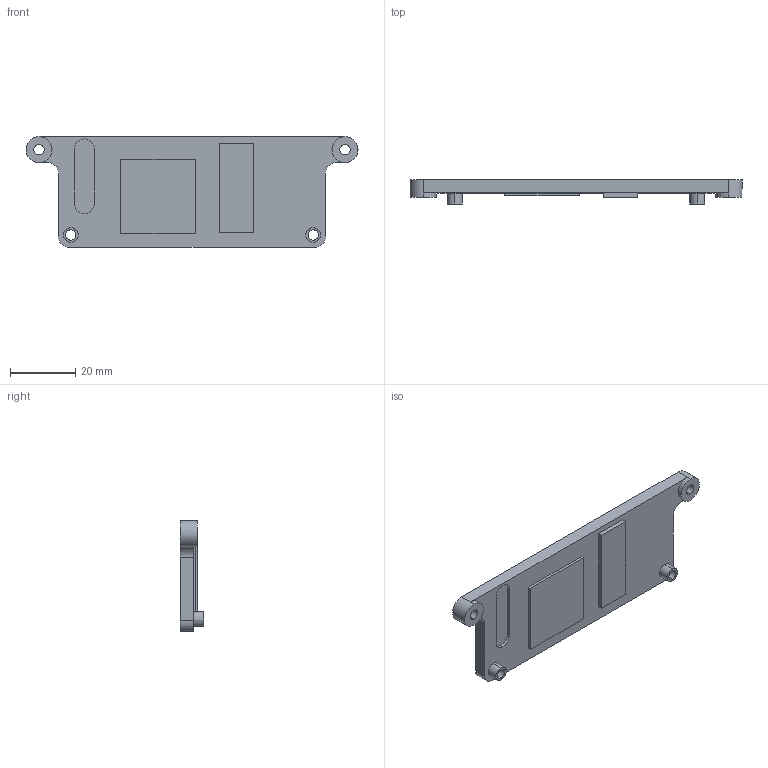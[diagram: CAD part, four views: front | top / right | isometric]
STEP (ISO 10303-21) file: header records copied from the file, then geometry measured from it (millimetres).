
FILE_DESCRIPTION (( 'STEP AP214' ), '1' );
FILE_NAME ('94-900288-1B MitySOM Thermal Spreader.STEP', '2014-08-29T16:22:12', ( 'dscrano' ), ( 'Microsoft' ), 'SwSTEP 2.0', 'SolidWorks 2013', '' );
FILE_SCHEMA (( 'AUTOMOTIVE_DESIGN' ));
Length unit declared in the file: millimetre
Products named in the file (1): 94-900288-1B MitySOM Thermal Spreader
Bounding box: 102 x 7.35 x 34 mm (x, y, z)
Volume: 12484.4 mm3; surface area: 7492.8 mm2
Topology: 1 solids, 1 shells, 48 faces, 119 edges, 78 vertices
Faces by surface type: plane 25, cylinder 23
Entity records: 1487 total; most frequent: DIRECTION 263, CARTESIAN_POINT 246, ORIENTED_EDGE 238, EDGE_CURVE 119, AXIS2_PLACEMENT_3D 95, VERTEX_POINT 78, LINE 73, VECTOR 73
